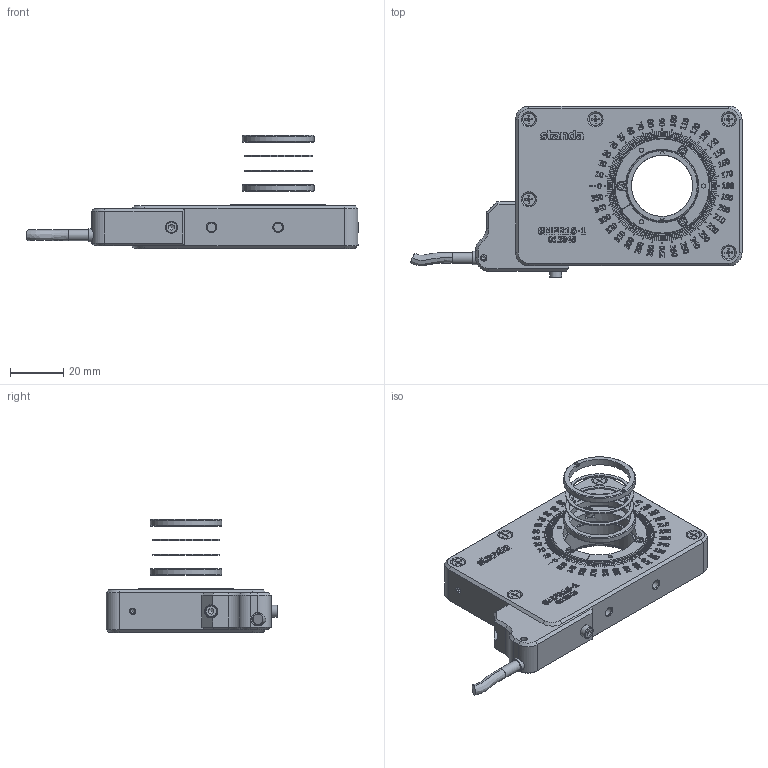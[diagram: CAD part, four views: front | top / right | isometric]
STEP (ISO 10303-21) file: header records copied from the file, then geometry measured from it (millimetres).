
FILE_DESCRIPTION(/* description */ (''),/* implementation_level */ '2;1');
FILE_NAME(/* name */ 'U:\KONSTRUKTORIAI\DOKUMENTACIJA\8\8MPR16-1\STEP\8MPR16-1-MEn1 SB.stp',/* time_stamp */ '2022-11-24T08:49:54+02:00',/* author */ ('dsgn32'),/* organization */ (''),/* preprocessor_version */ 'ST-DEVELOPER v15.2',/* originating_system */ 'Autodesk Inventor 2014',/* authorisation */ '');
FILE_SCHEMA (('CONFIG_CONTROL_DESIGN'));
Products named in the file (1): 8MPR16-1-MEn1 SB
Bounding box: 124.62 x 64.5 x 42.5 mm (x, y, z)
Volume: 73886.4 mm3; surface area: 24138.7 mm2
Topology: 5 solids, 28 shells, 3327 faces, 9109 edges, 6057 vertices
Faces by surface type: plane 1771, bspline 1234, cone 148, cylinder 119, torus 55
Full cylindrical faces by diameter (mm): 1.221 x3, 1.567 x3, 1.6 x3, 1.8 x3, 2.013 x10, 2.224 x9, 2.459 x3, 2.5 x6, 2.9 x7, 3 x3, 3.242 x4, 4 x2, 4.5 x2, 4.7 x9, 5 x3, 23 x4, 25.5 x2, 25.917 x1, 27 x2, 27.5 x1, 30.6 x1, 33.4 x3, 35 x2, 36 x1, 37 x1
Entity records: 117458 total; most frequent: CARTESIAN_POINT 39314, ORIENTED_EDGE 17688, DIRECTION 11155, EDGE_CURVE 8842, VERTEX_POINT 5958, LINE 5313, VECTOR 5313, EDGE_LOOP 3756
